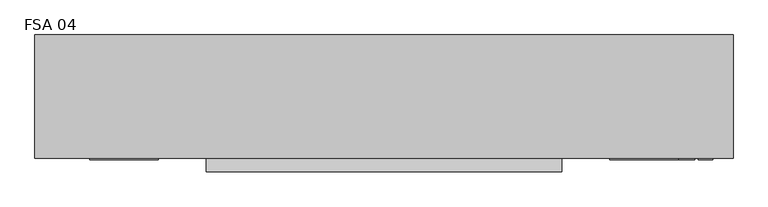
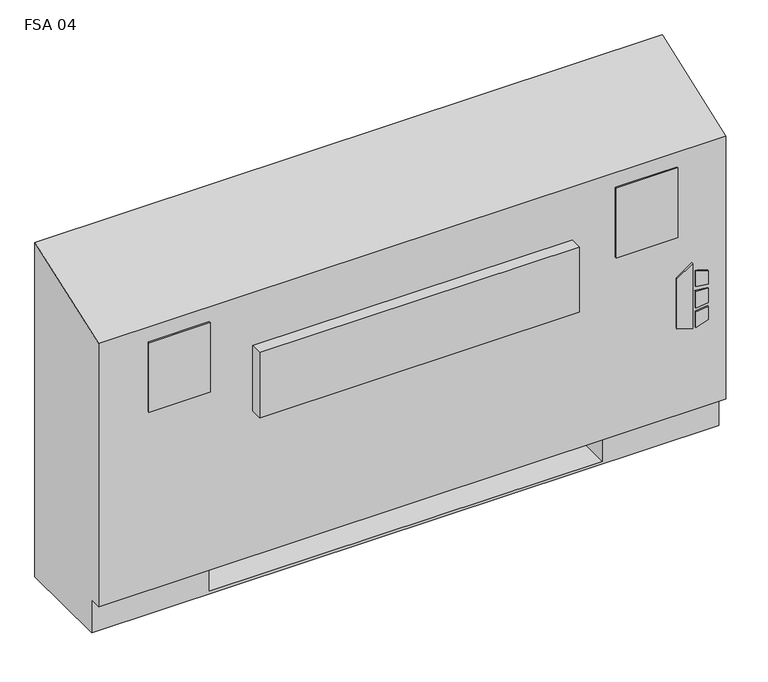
"""IFC4 building model written with IfcOpenShell, lengths in millimetres: proxy geometry, Vertical_Fan_Coil_Unit_-_FSA_-_IEC_-_4-Pipe_FS-FR_RH_2022 : FSA 04."""

from ifc_helpers import new_model, si_unit, point, frame, frame_2d, origin, place, context, project, spatial, polyline, circle_curve, trimmed, segment, composite_curve, outline, extrude, source, transform, mapped, element, save
from ifc_brep_helpers import plane_surface, revolved_surface, advanced_brep


def fsa_04_b2a41085(model_context):
    return source(origin(), model_context, "Body", "SolidModel", [
        extrude(outline(polyline([(263.9480703, 696.9868862), (254.0, 729.1602728), (396.1709244, 729.1602728), (373.1489183, 696.9868862), (263.9480703, 696.9868862)])), frame((0.0, 12.7, 0.0), z_axis=(0.0, 1.0, 0.0), x_axis=(0.0, 0.0, 1.0)), (0.0, 0.0, 1.0), 3.175),
        extrude(outline(polyline([(342.9473557, 735.9186058), (339.7449632, 762.0), (368.9738042, 762.0), (377.0382193, 735.9186058), (342.9473557, 735.9186058)])), frame((0.0, 12.7, 0.0), z_axis=(0.0, 1.0, 0.0), x_axis=(0.0, 0.0, 1.0)), (0.0, 0.0, 1.0), 3.175),
        extrude(outline(polyline([(291.0838288, 762.0), (287.4183279, 735.9186058), (254.0, 735.9186058), (262.6342372, 762.0), (291.0838288, 762.0)])), frame((0.0, 12.7, 0.0), z_axis=(0.0, 1.0, 0.0), x_axis=(0.0, 0.0, 1.0)), (0.0, 0.0, 1.0), 3.175),
        extrude(outline(polyline([(330.3989903, 762.0), (332.6808166, 735.9186058), (296.7432681, 735.9186058), (299.4845331, 762.0), (330.3989903, 762.0)])), frame((0.0, 12.7, 0.0), z_axis=(0.0, 1.0, 0.0), x_axis=(0.0, 0.0, 1.0)), (0.0, 0.0, 1.0), 3.175),
        extrude(outline(polyline([(-374.65, 81.534), (-374.65, 223.266), (-254.0, 223.266), (-254.0, 81.534), (-374.65, 81.534)])), frame((0.0, 0.0, 327.025), z_axis=(0.0, 0.0, 1.0), x_axis=(1.0, 0.0, 0.0)), (0.0, 0.0, 1.0), 260.35),
        extrude(outline(polyline([(-266.7, 12.7), (-393.7, 12.7), (-393.7, 15.875), (-266.7, 15.875), (-266.7, 12.7)])), frame((0.0, 0.0, 463.55), z_axis=(0.0, 0.0, 1.0), x_axis=(1.0, 0.0, 0.0)), (0.0, 0.0, 1.0), 152.4),
        extrude(outline(polyline([(698.5, 12.7), (571.5, 12.7), (571.5, 15.875), (698.5, 15.875), (698.5, 12.7)])), frame((0.0, 0.0, 463.55), z_axis=(0.0, 0.0, 1.0), x_axis=(1.0, 0.0, 0.0)), (0.0, 0.0, 1.0), 152.4),
        extrude(outline(composite_curve([segment(trimmed(circle_curve(frame_2d((622.3, 130.175)), 9.525), [point((612.775, 130.175))], [point((631.825, 130.175))], False, "CARTESIAN"), True, "CONTINUOUS"), segment(trimmed(circle_curve(frame_2d((622.3, 130.175)), 9.525), [point((631.825, 130.175))], [point((612.775, 130.175))], False, "CARTESIAN"), True, "CONTINUOUS")], self_intersect=False)), frame((0.0, 0.0, 101.6), z_axis=(0.0, 0.0, 1.0), x_axis=(1.0, 0.0, 0.0)), (0.0, 0.0, 1.0), 25.4),
        extrude(outline(polyline([(723.9, 196.85), (723.9, 63.5), (558.8, 63.5), (558.8, 196.85), (723.9, 196.85)])), frame((0.0, 0.0, 127.0), z_axis=(0.0, 0.0, 1.0), x_axis=(1.0, 0.0, 0.0)), (0.0, 0.0, 1.0), 50.8),
        extrude(outline(polyline([(482.6, -9.525), (-177.8, -9.525), (-177.8, 15.875), (482.6, 15.875), (482.6, -9.525)])), frame((0.0, 0.0, 389.3009245), z_axis=(0.0, 0.0, 1.0), x_axis=(1.0, 0.0, 0.0)), (0.0, 0.0, 1.0), 142.875),
        extrude(outline(composite_curve([segment(trimmed(circle_curve(frame_2d((117.475, 472.44)), 7.9375), [point((117.475, 480.3775))], [point((117.475, 464.5025))], False, "CARTESIAN"), True, "CONTINUOUS"), segment(trimmed(circle_curve(frame_2d((117.475, 472.44)), 7.9375), [point((117.475, 464.5025))], [point((117.475, 480.3775))], False, "CARTESIAN"), True, "CONTINUOUS")], self_intersect=False)), frame((558.8, 0.0, 0.0), z_axis=(1.0, 0.0, 0.0), x_axis=(0.0, 1.0, 0.0)), (0.0, 0.0, 1.0), 50.8),
        extrude(outline(composite_curve([segment(trimmed(circle_curve(frame_2d((164.0586, 445.897)), 7.9375), [point((164.0586, 453.8345))], [point((164.0586, 437.9595))], False, "CARTESIAN"), True, "CONTINUOUS"), segment(trimmed(circle_curve(frame_2d((164.0586, 445.897)), 7.9375), [point((164.0586, 437.9595))], [point((164.0586, 453.8345))], False, "CARTESIAN"), True, "CONTINUOUS")], self_intersect=False)), frame((558.8, 0.0, 0.0), z_axis=(1.0, 0.0, 0.0), x_axis=(0.0, 1.0, 0.0)), (0.0, 0.0, 1.0), 50.8),
        extrude(outline(composite_curve([segment(trimmed(circle_curve(frame_2d((53.975, 416.56)), 7.9502), [point((53.975, 424.5102))], [point((53.975, 408.6098))], False, "CARTESIAN"), True, "CONTINUOUS"), segment(trimmed(circle_curve(frame_2d((53.975, 416.56)), 7.9502), [point((53.975, 408.6098))], [point((53.975, 424.5102))], False, "CARTESIAN"), True, "CONTINUOUS")], self_intersect=False)), frame((558.8, 0.0, 0.0), z_axis=(1.0, 0.0, 0.0), x_axis=(0.0, 1.0, 0.0)), (0.0, 0.0, 1.0), 50.8),
        extrude(outline(composite_curve([segment(trimmed(circle_curve(frame_2d((130.175, 554.99)), 7.9502), [point((130.175, 562.9402))], [point((130.175, 547.0398))], False, "CARTESIAN"), True, "CONTINUOUS"), segment(trimmed(circle_curve(frame_2d((130.175, 554.99)), 7.9502), [point((130.175, 547.0398))], [point((130.175, 562.9402))], False, "CARTESIAN"), True, "CONTINUOUS")], self_intersect=False)), frame((558.8, 0.0, 0.0), z_axis=(1.0, 0.0, 0.0), x_axis=(0.0, 1.0, 0.0)), (0.0, 0.0, 1.0), 50.8),
        advanced_brep(
        [(-495.3, 244.475, 0.0), (800.1, 244.475, 0.0), (800.1, 41.275, 0.0), (-495.3, 41.275, 0.0), (-495.3, 244.475, 730.25), (800.1, 244.475, 730.25), (558.8, 244.475, 73.025), (787.4, 244.475, 73.025), (787.4, 244.475, 654.05), (558.8, 244.475, 654.05), (558.8, 244.475, 414.8650565), (587.375, 244.475, 414.8650565), (587.375, 244.475, 385.2349435), (558.8, 244.475, 385.2349435), (558.8, 244.475, 287.3375), (587.375, 244.475, 287.3375), (587.375, 244.475, 258.7625), (558.8, 244.475, 258.7625), (558.8, 244.475, 141.2875), (587.375, 244.475, 141.2875), (587.375, 244.475, 112.7125), (558.8, 244.475, 112.7125), (-254.0, 244.475, 654.05), (-482.6, 244.475, 654.05), (-482.6, 244.475, 73.025), (-254.0, 244.475, 73.025), (-254.0, 244.475, 112.7125), (-282.575, 244.475, 112.7125), (-282.575, 244.475, 141.2875), (-254.0, 244.475, 141.2875), (-254.0, 244.475, 258.7625), (-282.575, 244.475, 258.7625), (-282.575, 244.475, 287.3375), (-254.0, 244.475, 287.3375), (-254.0, 244.475, 385.2349435), (-282.575, 244.475, 385.2349435), (-282.575, 244.475, 414.8650565), (-254.0, 244.475, 414.8650565), (577.0626, 244.475, 127.0), (565.9374, 244.475, 127.0), (577.0626, 244.475, 400.05), (565.9374, 244.475, 400.05), (577.0626, 244.475, 273.05), (565.9374, 244.475, 273.05), (-261.1374, 244.475, 127.0), (-272.2626, 244.475, 127.0), (-261.1374, 244.475, 273.05), (-272.2626, 244.475, 273.05), (-261.1374, 244.475, 400.05), (-272.2626, 244.475, 400.05), (-495.3, 41.275, 73.025), (-495.3, 15.875, 73.025), (-495.3, 15.875, 647.7), (800.1, 15.875, 73.025), (800.1, 15.875, 647.7), (800.1, 41.275, 73.025), (-254.0, 41.275, 73.025), (-254.0, 225.425, 73.025), (558.8, 225.425, 73.025), (558.8, 41.275, 73.025), (558.8, 41.275, 6.35), (-254.0, 41.275, 6.35), (558.8, 41.275, 654.05), (787.4, 41.275, 654.05), (787.4, 41.275, 73.025), (558.8, 41.275, 73.025), (-254.0, 41.275, 654.05), (-254.0, 41.275, 73.025), (-482.6, 41.275, 73.025), (-482.6, 41.275, 654.05), (558.8, 225.425, 73.025), (558.8, 238.125, 112.7125), (558.8, 238.125, 141.2875), (558.8, 238.125, 258.7625), (558.8, 238.125, 287.3375), (558.8, 238.125, 385.2349435), (558.8, 238.125, 414.8650565), (-254.0, 225.425, 73.025), (-254.0, 238.125, 414.8650565), (-254.0, 238.125, 385.2349435), (-254.0, 238.125, 287.3375), (-254.0, 238.125, 258.7625), (-254.0, 238.125, 141.2875), (-254.0, 238.125, 112.7125), (-254.0, 225.425, 6.35), (558.8, 225.425, 6.35), (587.375, 238.125, 112.7125), (587.375, 238.125, 141.2875), (565.9374, 238.125, 127.0), (577.0626, 238.125, 127.0), (587.375, 238.125, 258.7625), (587.375, 238.125, 287.3375), (565.9374, 238.125, 273.05), (577.0626, 238.125, 273.05), (587.375, 238.125, 385.2349435), (587.375, 238.125, 414.8650565), (565.9374, 238.125, 400.05), (577.0626, 238.125, 400.05), (-282.575, 238.125, 141.2875), (-282.575, 238.125, 112.7125), (-272.2626, 238.125, 127.0), (-261.1374, 238.125, 127.0), (-282.575, 238.125, 287.3375), (-282.575, 238.125, 258.7625), (-272.2626, 238.125, 273.05), (-261.1374, 238.125, 273.05), (-282.575, 238.125, 414.8650565), (-282.575, 238.125, 385.2349435), (-272.2626, 238.125, 400.05), (-261.1374, 238.125, 400.05)],
        [
            (0, 1),
            (1, 2),
            (2, 3),
            (3, 0),
            (0, 4),
            (4, 5),
            (5, 1),
            (6, 7),
            (7, 8),
            (8, 9),
            (9, 10),
            (10, 11),
            (11, 12),
            (12, 13),
            (13, 14),
            (14, 15),
            (15, 16),
            (16, 17),
            (17, 18),
            (18, 19),
            (19, 20),
            (20, 21),
            (21, 6),
            (22, 23),
            (23, 24),
            (24, 25),
            (25, 26),
            (26, 27),
            (27, 28),
            (28, 29),
            (29, 30),
            (30, 31),
            (31, 32),
            (32, 33),
            (33, 34),
            (34, 35),
            (35, 36),
            (36, 37),
            (37, 22),
            (38, 39, circle_curve(frame((571.5, 244.475, 127.0), z_axis=(0.0, -1.0, 0.0), x_axis=(-1.0, 0.0, 0.0)), 5.5626)),
            (39, 38, circle_curve(frame((571.5, 244.475, 127.0), z_axis=(0.0, -1.0, 0.0), x_axis=(-1.0, 0.0, 0.0)), 5.5626)),
            (40, 41, circle_curve(frame((571.5, 244.475, 400.05), z_axis=(0.0, -1.0, 0.0), x_axis=(-1.0, 0.0, 0.0)), 5.5626)),
            (41, 40, circle_curve(frame((571.5, 244.475, 400.05), z_axis=(0.0, -1.0, 0.0), x_axis=(-1.0, 0.0, 0.0)), 5.5626)),
            (42, 43, circle_curve(frame((571.5, 244.475, 273.05), z_axis=(0.0, -1.0, 0.0), x_axis=(-1.0, 0.0, 0.0)), 5.5626)),
            (43, 42, circle_curve(frame((571.5, 244.475, 273.05), z_axis=(0.0, -1.0, 0.0), x_axis=(-1.0, 0.0, 0.0)), 5.5626)),
            (44, 45, circle_curve(frame((-266.7, 244.475, 127.0), z_axis=(0.0, -1.0, 0.0), x_axis=(-1.0, 0.0, 0.0)), 5.5626)),
            (45, 44, circle_curve(frame((-266.7, 244.475, 127.0), z_axis=(0.0, -1.0, 0.0), x_axis=(-1.0, 0.0, 0.0)), 5.5626)),
            (46, 47, circle_curve(frame((-266.7, 244.475, 273.05), z_axis=(0.0, -1.0, 0.0), x_axis=(-1.0, 0.0, 0.0)), 5.5626)),
            (47, 46, circle_curve(frame((-266.7, 244.475, 273.05), z_axis=(0.0, -1.0, 0.0), x_axis=(-1.0, 0.0, 0.0)), 5.5626)),
            (48, 49, circle_curve(frame((-266.7, 244.475, 400.05), z_axis=(0.0, -1.0, 0.0), x_axis=(-1.0, 0.0, 0.0)), 5.5626)),
            (49, 48, circle_curve(frame((-266.7, 244.475, 400.05), z_axis=(0.0, -1.0, 0.0), x_axis=(-1.0, 0.0, 0.0)), 5.5626)),
            (3, 50),
            (50, 51),
            (51, 52),
            (52, 4),
            (51, 53),
            (53, 54),
            (54, 52),
            (5, 54),
            (53, 55),
            (55, 2),
            (50, 56),
            (56, 57),
            (57, 58),
            (58, 59),
            (59, 55),
            (59, 60),
            (60, 61),
            (61, 56),
            (62, 63),
            (63, 64),
            (64, 65),
            (65, 62),
            (66, 67),
            (67, 68),
            (68, 69),
            (69, 66),
            (65, 70),
            (70, 6),
            (21, 71),
            (71, 72),
            (72, 18),
            (17, 73),
            (73, 74),
            (74, 14),
            (13, 75),
            (75, 76),
            (76, 10),
            (9, 62),
            (64, 7),
            (63, 8),
            (69, 23),
            (22, 66),
            (68, 24),
            (67, 77),
            (77, 25),
            (37, 78),
            (78, 79),
            (79, 34),
            (33, 80),
            (80, 81),
            (81, 30),
            (29, 82),
            (82, 83),
            (83, 26),
            (57, 84),
            (84, 85),
            (85, 58),
            (85, 60),
            (84, 61),
            (71, 86),
            (86, 87),
            (87, 72),
            (88, 89, circle_curve(frame((571.5, 238.125, 127.0), z_axis=(0.0, 1.0, 0.0), x_axis=(-1.0, 0.0, 0.0)), 5.5626)),
            (89, 88, circle_curve(frame((571.5, 238.125, 127.0), z_axis=(0.0, 1.0, 0.0), x_axis=(-1.0, 0.0, 0.0)), 5.5626)),
            (73, 90),
            (90, 91),
            (91, 74),
            (92, 93, circle_curve(frame((571.5, 238.125, 273.05), z_axis=(0.0, 1.0, 0.0), x_axis=(-1.0, 0.0, 0.0)), 5.5626)),
            (93, 92, circle_curve(frame((571.5, 238.125, 273.05), z_axis=(0.0, 1.0, 0.0), x_axis=(-1.0, 0.0, 0.0)), 5.5626)),
            (75, 94),
            (94, 95),
            (95, 76),
            (96, 97, circle_curve(frame((571.5, 238.125, 400.05), z_axis=(0.0, 1.0, 0.0), x_axis=(-1.0, 0.0, 0.0)), 5.5626)),
            (97, 96, circle_curve(frame((571.5, 238.125, 400.05), z_axis=(0.0, 1.0, 0.0), x_axis=(-1.0, 0.0, 0.0)), 5.5626)),
            (98, 99),
            (99, 83),
            (82, 98),
            (100, 101, circle_curve(frame((-266.7, 238.125, 127.0), z_axis=(0.0, 1.0, 0.0), x_axis=(-1.0, 0.0, 0.0)), 5.5626)),
            (101, 100, circle_curve(frame((-266.7, 238.125, 127.0), z_axis=(0.0, 1.0, 0.0), x_axis=(-1.0, 0.0, 0.0)), 5.5626)),
            (102, 103),
            (103, 81),
            (80, 102),
            (104, 105, circle_curve(frame((-266.7, 238.125, 273.05), z_axis=(0.0, 1.0, 0.0), x_axis=(-1.0, 0.0, 0.0)), 5.5626)),
            (105, 104, circle_curve(frame((-266.7, 238.125, 273.05), z_axis=(0.0, 1.0, 0.0), x_axis=(-1.0, 0.0, 0.0)), 5.5626)),
            (106, 107),
            (107, 79),
            (78, 106),
            (108, 109, circle_curve(frame((-266.7, 238.125, 400.05), z_axis=(0.0, 1.0, 0.0), x_axis=(-1.0, 0.0, 0.0)), 5.5626)),
            (109, 108, circle_curve(frame((-266.7, 238.125, 400.05), z_axis=(0.0, 1.0, 0.0), x_axis=(-1.0, 0.0, 0.0)), 5.5626)),
            (87, 19),
            (86, 20),
            (91, 15),
            (90, 16),
            (95, 11),
            (94, 12),
            (28, 98),
            (99, 27),
            (32, 102),
            (103, 31),
            (36, 106),
            (107, 35),
            (88, 39),
            (38, 89),
            (96, 41),
            (40, 97),
            (92, 43),
            (42, 93),
            (100, 45),
            (44, 101),
            (104, 47),
            (46, 105),
            (108, 49),
            (48, 109),
        ],
        [
            plane_surface(frame((-495.3, 244.475, 0.0), z_axis=(0.0, 0.0, -1.0), x_axis=(1.0, 0.0, 0.0))),
            plane_surface(frame((800.1, 244.475, 730.25), z_axis=(0.0, 1.0, 0.0), x_axis=(0.0, 0.0, -1.0))),
            plane_surface(frame((-495.3, 244.475, 730.25), z_axis=(-1.0, 0.0, 0.0), x_axis=(0.0, 0.0, -1.0))),
            plane_surface(frame((-495.3, 15.875, 730.25), z_axis=(0.0, -1.0, 0.0), x_axis=(0.0, 0.0, -1.0))),
            plane_surface(frame((800.1, 15.875, 730.25), z_axis=(1.0, 0.0, 0.0), x_axis=(0.0, 0.0, -1.0))),
            plane_surface(frame((-495.3, 15.875, 73.025), z_axis=(0.0, 0.0, -1.0), x_axis=(1.0, 0.0, 0.0))),
            plane_surface(frame((-495.3, 41.275, 73.025), z_axis=(0.0, -1.0, 0.0), x_axis=(1.0, 0.0, 0.0))),
            plane_surface(frame((558.8, 41.275, 654.05), z_axis=(0.0, 1.0, 0.0), x_axis=(0.0, 0.0, -1.0))),
            plane_surface(frame((558.8, 41.275, 654.05), z_axis=(1.0, 0.0, 0.0), x_axis=(0.0, 1.0, 0.0))),
            plane_surface(frame((558.8, 41.275, 73.025), z_axis=(0.0, 0.0, 1.0), x_axis=(0.0, 1.0, 0.0))),
            plane_surface(frame((787.4, 41.275, 73.025), z_axis=(-1.0, 0.0, 0.0), x_axis=(0.0, 1.0, 0.0))),
            plane_surface(frame((787.4, 41.275, 654.05), z_axis=(0.0, 0.0, -1.0), x_axis=(0.0, 1.0, 0.0))),
            plane_surface(frame((-254.0, 41.275, 654.05), z_axis=(0.0, 0.0, -1.0), x_axis=(0.0, 1.0, 0.0))),
            plane_surface(frame((-482.6, 41.275, 654.05), z_axis=(1.0, 0.0, 0.0), x_axis=(0.0, 1.0, 0.0))),
            plane_surface(frame((-482.6, 41.275, 73.025), z_axis=(0.0, 0.0, 1.0), x_axis=(0.0, 1.0, 0.0))),
            plane_surface(frame((-254.0, 41.275, 73.025), z_axis=(-1.0, 0.0, 0.0), x_axis=(0.0, 1.0, 0.0))),
            plane_surface(frame((558.8, 225.425, 73.025), z_axis=(0.0, -1.0, 0.0), x_axis=(0.0, 0.0, -1.0))),
            plane_surface(frame((558.8, 225.425, 73.025), z_axis=(-1.0, 0.0, 0.0), x_axis=(0.0, -1.0, 0.0))),
            plane_surface(frame((558.8, 225.425, 6.35), z_axis=(0.0, 0.0, 1.0), x_axis=(0.0, -1.0, 0.0))),
            plane_surface(frame((-254.0, 225.425, 6.35), z_axis=(1.0, 0.0, 0.0), x_axis=(0.0, -1.0, 0.0))),
            plane_surface(frame((587.375, 238.125, 141.2875), z_axis=(0.0, -1.0, 0.0), x_axis=(-1.0, 0.0, 0.0))),
            plane_surface(frame((558.8, 244.475, 141.2875), z_axis=(0.0, 0.0, 1.0), x_axis=(0.0, -1.0, 0.0))),
            plane_surface(frame((587.375, 244.475, 141.2875), z_axis=(1.0, 0.0, 0.0), x_axis=(0.0, -1.0, 0.0))),
            plane_surface(frame((587.375, 244.475, 112.7125), z_axis=(0.0, 0.0, -1.0), x_axis=(0.0, -1.0, 0.0))),
            plane_surface(frame((558.8, 244.475, 287.3375), z_axis=(0.0, 0.0, 1.0), x_axis=(0.0, -1.0, 0.0))),
            plane_surface(frame((587.375, 244.475, 287.3375), z_axis=(1.0, 0.0, 0.0), x_axis=(0.0, -1.0, 0.0))),
            plane_surface(frame((587.375, 244.475, 258.7625), z_axis=(0.0, 0.0, -1.0), x_axis=(0.0, -1.0, 0.0))),
            plane_surface(frame((558.8, 244.475, 414.8650565), z_axis=(0.0, 0.0, 1.0), x_axis=(0.0, -1.0, 0.0))),
            plane_surface(frame((587.375, 244.475, 414.8650565), z_axis=(1.0, 0.0, 0.0), x_axis=(0.0, -1.0, 0.0))),
            plane_surface(frame((587.375, 244.475, 385.2349435), z_axis=(0.0, 0.0, -1.0), x_axis=(0.0, -1.0, 0.0))),
            plane_surface(frame((-282.575, 244.475, 141.2875), z_axis=(0.0, 0.0, 1.0), x_axis=(0.0, -1.0, 0.0))),
            plane_surface(frame((-254.0, 244.475, 112.7125), z_axis=(0.0, 0.0, -1.0), x_axis=(0.0, -1.0, 0.0))),
            plane_surface(frame((-282.575, 244.475, 112.7125), z_axis=(-1.0, 0.0, 0.0), x_axis=(0.0, -1.0, 0.0))),
            plane_surface(frame((-282.575, 244.475, 287.3375), z_axis=(0.0, 0.0, 1.0), x_axis=(0.0, -1.0, 0.0))),
            plane_surface(frame((-254.0, 244.475, 258.7625), z_axis=(0.0, 0.0, -1.0), x_axis=(0.0, -1.0, 0.0))),
            plane_surface(frame((-282.575, 244.475, 258.7625), z_axis=(-1.0, 0.0, 0.0), x_axis=(0.0, -1.0, 0.0))),
            plane_surface(frame((-282.575, 244.475, 414.8650565), z_axis=(0.0, 0.0, 1.0), x_axis=(0.0, -1.0, 0.0))),
            plane_surface(frame((-254.0, 244.475, 385.2349435), z_axis=(0.0, 0.0, -1.0), x_axis=(0.0, -1.0, 0.0))),
            plane_surface(frame((-282.575, 244.475, 385.2349435), z_axis=(-1.0, 0.0, 0.0), x_axis=(0.0, -1.0, 0.0))),
            revolved_surface(polyline([(565.9374, 238.125, 127.0), (565.9374, 244.475, 127.0)]), (571.5, 244.475, 127.0), (0.0, -1.0, 0.0)),
            revolved_surface(polyline([(565.9374, 238.125, 400.05), (565.9374, 244.475, 400.05)]), (571.5, 244.475, 400.05), (0.0, -1.0, 0.0)),
            revolved_surface(polyline([(565.9374, 238.125, 273.05), (565.9374, 244.475, 273.05)]), (571.5, 244.475, 273.05), (0.0, -1.0, 0.0)),
            revolved_surface(polyline([(-272.26259999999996, 238.125, 127.0), (-272.26259999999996, 244.475, 127.0)]), (-266.7, 244.475, 127.0), (0.0, -1.0, 0.0)),
            revolved_surface(polyline([(-272.26259999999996, 238.125, 273.05), (-272.26259999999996, 244.475, 273.05)]), (-266.7, 244.475, 273.05), (0.0, -1.0, 0.0)),
            revolved_surface(polyline([(-272.26259999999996, 238.125, 400.05), (-272.26259999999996, 244.475, 400.05)]), (-266.7, 244.475, 400.05), (0.0, -1.0, 0.0)),
            plane_surface(frame((-495.3, 244.475, 730.25), z_axis=(0.0, -0.33964446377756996, 0.9405538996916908), x_axis=(1.0, 0.0, 0.0))),
        ],
        [
            (0, [[1, 2, 3, 4]]),
            (1, [[-1, 5, 6, 7], [8, 9, 10, 11, 12, 13, 14, 15, 16, 17, 18, 19, 20, 21, 22, 23], [24, 25, 26, 27, 28, 29, 30, 31, 32, 33, 34, 35, 36, 37, 38, 39], [40, 41], [42, 43], [44, 45], [46, 47], [48, 49], [50, 51]]),
            (2, [[-5, -4, 52, 53, 54, 55]]),
            (3, [[56, 57, 58, -54]]),
            (4, [[-7, 59, -57, 60, 61, -2]]),
            (5, [[-53, 62, 63, 64, 65, 66, -60, -56]]),
            (6, [[-3, -61, -66, 67, 68, 69, -62, -52]]),
            (7, [[70, 71, 72, 73]]),
            (7, [[74, 75, 76, 77]]),
            (8, [[-73, 78, 79, -23, 80, 81, 82, -19, 83, 84, 85, -15, 86, 87, 88, -11, 89]]),
            (9, [[-72, 90, -8, -79, -78]]),
            (10, [[-71, 91, -9, -90]]),
            (11, [[-70, -89, -10, -91]]),
            (12, [[-77, 92, -24, 93]]),
            (13, [[-76, 94, -25, -92]]),
            (14, [[-75, 95, 96, -26, -94]]),
            (15, [[-74, -93, -39, 97, 98, 99, -35, 100, 101, 102, -31, 103, 104, 105, -27, -96, -95]]),
            (16, [[-64, 106, 107, 108]]),
            (17, [[-108, 109, -67, -65]]),
            (18, [[-107, 110, -68, -109]]),
            (19, [[-106, -63, -69, -110]]),
            (20, [[111, 112, 113, -81], [114, 115]]),
            (20, [[116, 117, 118, -84], [119, 120]]),
            (20, [[121, 122, 123, -87], [124, 125]]),
            (20, [[126, 127, -104, 128], [129, 130]]),
            (20, [[131, 132, -101, 133], [134, 135]]),
            (20, [[136, 137, -98, 138], [139, 140]]),
            (21, [[-113, 141, -20, -82]]),
            (22, [[-112, 142, -21, -141]]),
            (23, [[-111, -80, -22, -142]]),
            (24, [[-118, 143, -16, -85]]),
            (25, [[-117, 144, -17, -143]]),
            (26, [[-116, -83, -18, -144]]),
            (27, [[-123, 145, -12, -88]]),
            (28, [[-122, 146, -13, -145]]),
            (29, [[-121, -86, -14, -146]]),
            (30, [[-128, -103, -30, 147]]),
            (31, [[-127, 148, -28, -105]]),
            (32, [[-126, -147, -29, -148]]),
            (33, [[-133, -100, -34, 149]]),
            (34, [[-132, 150, -32, -102]]),
            (35, [[-131, -149, -33, -150]]),
            (36, [[-138, -97, -38, 151]]),
            (37, [[-137, 152, -36, -99]]),
            (38, [[-136, -151, -37, -152]]),
            (39, [[153, -40, 154, -114]]),
            (39, [[-153, -115, -154, -41]]),
            (40, [[155, -42, 156, -124]]),
            (40, [[-155, -125, -156, -43]]),
            (41, [[157, -44, 158, -119]]),
            (41, [[-157, -120, -158, -45]]),
            (42, [[159, -46, 160, -129]]),
            (42, [[-159, -130, -160, -47]]),
            (43, [[161, -48, 162, -134]]),
            (43, [[-161, -135, -162, -49]]),
            (44, [[163, -50, 164, -139]]),
            (44, [[-163, -140, -164, -51]]),
            (45, [[-6, -55, -58, -59]]),
        ],
    ),
    ])


if __name__ == "__main__":
    model = new_model("IFC4")
    model_context = context("Model", 3, world=origin())
    ifc_project = project(units=[si_unit("LENGTHUNIT", "METRE", prefix="MILLI")], contexts=[model_context])
    site = spatial("IfcSite", under=ifc_project)
    building = spatial("IfcBuilding", under=site)
    placement = place(None, origin())
    fsa_04_shape = fsa_04_b2a41085(model_context)
    element("IfcBuildingElementProxy", 1, Name="Vertical_Fan_Coil_Unit_-_FSA_-_IEC_-_4-Pipe_FS-FR_RH_2022 : FSA 04", ObjectType="Vertical_Fan_Coil_Unit_-_FSA_-_IEC_-_4-Pipe_FS-FR_RH_2022 : FSA 04", at=placement, inside=building, context=model_context, shape_type="MappedRepresentation", body=[
        mapped(fsa_04_shape, transform((0.0, 0.0, 0.0), x_axis=(1.0, 0.0, 0.0), y_axis=(0.0, 1.0, 0.0), z_axis=(0.0, 0.0, 1.0))),
    ])
    save(model, "model.ifc")
